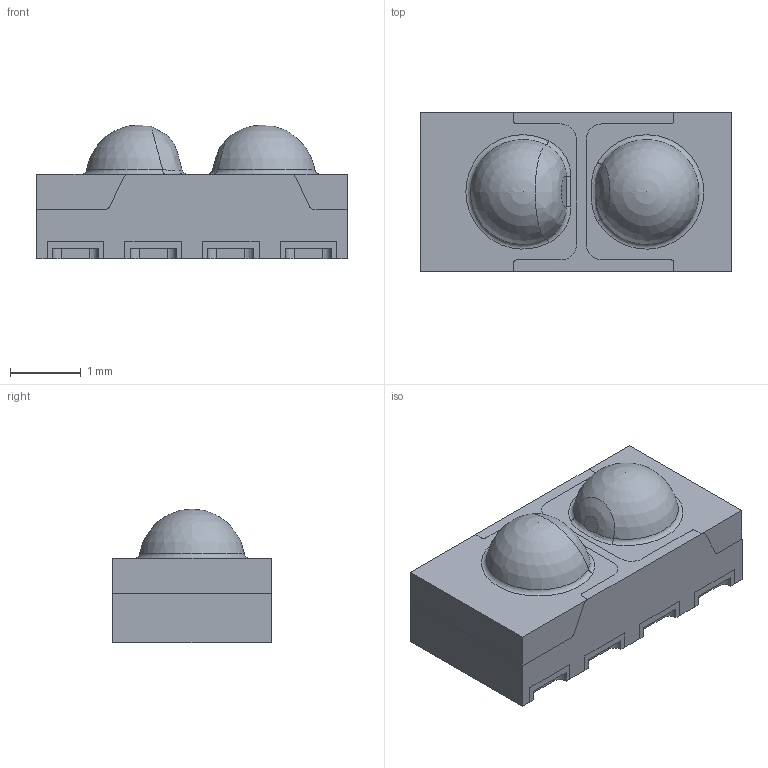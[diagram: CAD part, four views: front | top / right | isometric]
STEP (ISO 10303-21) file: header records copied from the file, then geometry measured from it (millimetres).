
FILE_DESCRIPTION(/* description */ ('','CAx-IF Rec.Pracs.---Representation and Presentation of Product Manufacturing Information (PMI)---4.0---2014-10-13'),/* implementation_level */ '2;1');
FILE_NAME(/* name */ 'C:\Users\skuhn\OneDrive - Vishay Intertechnology, Inc\Documents\02 Projects\D130001716-VCND2040X02\2_PRODUCT_DESIGN_AND_DEVELOPMENT\02_DRAWINGS\06 Drawing Update August 2023\PM-10079.00-000_MARCOM_prelim_and optical axis 242.stp',/* time_stamp */ '2024-03-07T15:26:56+01:00',/* author */ ('skuhn'),/* organization */ (''),/* preprocessor_version */ 'ST-DEVELOPER v18.1',/* originating_system */ 'Autodesk Inventor 2022',/* authorisation */ '');
FILE_SCHEMA (('AP242_MANAGED_MODEL_BASED_3D_ENGINEERING_MIM_LF { 1 0 10303 442 1 1 4 }'));
Length unit declared in the file: millimetre
Products named in the file (1): PM-10079.00-000_MARCOM_prelim_and op
Bounding box: 4.4 x 2.25 x 1.9 mm (x, y, z)
Volume: 13.3 mm3; surface area: 38.8 mm2
Topology: 1 solids, 1 shells, 164 faces, 500 edges, 338 vertices
Faces by surface type: plane 104, cylinder 51, bspline 5, torus 2, sphere 2
Entity records: 6004 total; most frequent: CARTESIAN_POINT 1254, ORIENTED_EDGE 996, DIRECTION 920, EDGE_CURVE 498, LINE 372, VECTOR 372, VERTEX_POINT 338, AXIS2_PLACEMENT_3D 274
